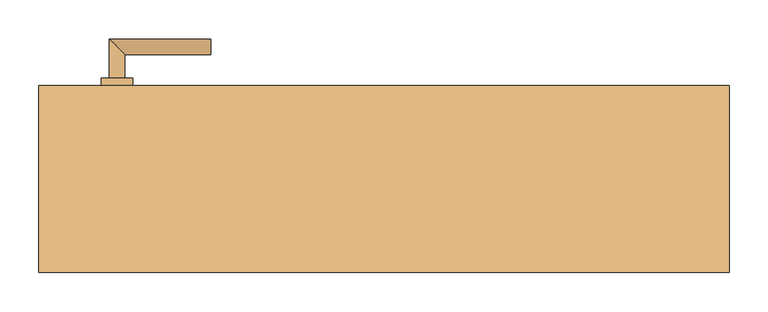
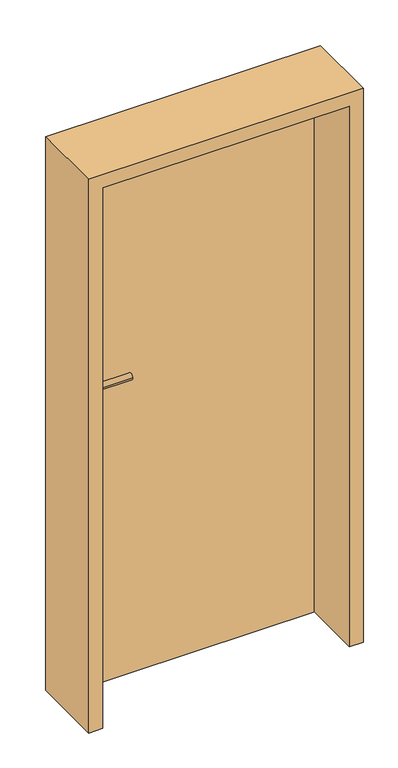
"""IFC4 building model written with IfcOpenShell, lengths in millimetres: door geometry, TU DF 1 - Rahmenstock flächenbündig variabel : ML - H - 885 x 1885."""

from ifc_helpers import new_model, si_unit, point, frame, frame_2d, origin, origin_with_axes, place, context, project, spatial, polyline, circle_curve, ellipse_curve, trimmed, segment, composite_curve, outline, extrude, faceted_brep, source, transform, mapped, element, save
from ifc_brep_helpers import plane_surface, cylinder_surface, advanced_brep


def door_21564633(model_context):
    return source(origin(), model_context, "Body", "SolidModel", [
        extrude(outline(polyline([(408.5, 120.0), (408.5, 75.0), (-408.5, 75.0), (-408.5, 120.0), (408.5, 120.0)])), origin_with_axes(), (0.0, 0.0, 1.0), 1851.0),
        advanced_brep(
        [(-332.5, 130.0, 1050.0), (-352.5, 130.0, 1050.0), (-332.5, 160.0, 1050.0), (-352.5, 180.0, 1050.0), (-222.5, 160.0, 1050.0), (-222.5, 180.0, 1050.0)],
        [
            (0, 1, circle_curve(frame((-342.5, 130.0, 1050.0), z_axis=(0.0, -1.0, 0.0), x_axis=(-1.0, 0.0, 0.0)), 10.0)),
            (1, 0, circle_curve(frame((-342.5, 130.0, 1050.0), z_axis=(0.0, -1.0, 0.0), x_axis=(-1.0, 0.0, 0.0)), 10.0)),
            (0, 2),
            (2, 3, ellipse_curve(frame((-342.5, 170.0, 1050.0), z_axis=(-0.7071067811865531, -0.7071067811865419, 0.0), x_axis=(0.707106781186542, -0.707106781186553, 0.0)), 14.1421356, 10.0)),
            (3, 1),
            (3, 2, ellipse_curve(frame((-342.5, 170.0, 1050.0), z_axis=(-0.7071067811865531, -0.7071067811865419, 0.0), x_axis=(0.707106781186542, -0.707106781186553, 0.0)), 14.1421356, 10.0)),
            (4, 5, circle_curve(frame((-222.5, 170.0, 1050.0), z_axis=(1.0, 0.0, 0.0), x_axis=(0.0, 1.0, 0.0)), 10.0)),
            (5, 4, circle_curve(frame((-222.5, 170.0, 1050.0), z_axis=(1.0, 0.0, 0.0), x_axis=(0.0, 1.0, 0.0)), 10.0)),
            (2, 4),
            (5, 3),
        ],
        [
            plane_surface(frame((-342.5, 130.0, 1050.0), z_axis=(0.0, -1.0, 0.0), x_axis=(0.0, 0.0, 1.0))),
            cylinder_surface(frame((-342.5, 130.0, 1050.0), z_axis=(0.0, -1.0, 0.0), x_axis=(-1.0, 0.0, 0.0)), 10.0),
            plane_surface(frame((-222.5, 170.0, 1050.0), z_axis=(1.0, 0.0, 0.0), x_axis=(0.0, 0.0, 1.0))),
            cylinder_surface(frame((-342.5, 170.0, 1050.0), z_axis=(-1.0, 0.0, 0.0), x_axis=(0.0, 1.0, 0.0)), 10.0),
        ],
        [
            (0, [[1, 2]]),
            (1, [[-1, 3, 4, 5]]),
            (1, [[-2, -5, 6, -3]]),
            (2, [[7, 8]]),
            (3, [[-4, 9, -8, 10]]),
            (3, [[-6, -10, -7, -9]]),
        ],
    ),
        extrude(outline(composite_curve([segment(trimmed(circle_curve(frame_2d((990.0, -342.5)), 20.0), [point((990.0, -362.5))], [point((990.0, -322.5))], False, "CARTESIAN"), True, "CONTINUOUS"), segment(trimmed(circle_curve(frame_2d((990.0, -342.5)), 20.0), [point((990.0, -322.5))], [point((990.0, -362.5))], False, "CARTESIAN"), True, "CONTINUOUS")], self_intersect=False), holes=[composite_curve([segment(polyline([(976.4601385, -344.897268), (988.4749012, -344.897268)]), True, "CONTINUOUS"), segment(trimmed(circle_curve(frame_2d((995.0361633, -342.5)), 6.9854888), [point((988.4749012, -344.897268))], [point((988.4749012, -340.102732))], True, "CARTESIAN"), True, "CONTINUOUS"), segment(polyline([(988.4749012, -340.102732), (976.4601385, -340.102732)]), True, "CONTINUOUS"), segment(trimmed(circle_curve(frame_2d((976.4601385, -342.5)), 2.397268), [point((976.4601385, -340.102732))], [point((976.4601385, -344.897268))], True, "CARTESIAN"), True, "CONTINUOUS")], self_intersect=False)]), frame((0.0, 120.0, 0.0), z_axis=(0.0, 1.0, 0.0), x_axis=(0.0, 0.0, 1.0)), (0.0, 0.0, 1.0), 10.0),
        advanced_brep(
        [(-332.5, 130.0, 1050.0), (-352.5, 130.0, 1050.0), (-332.5, 160.0, 1050.0), (-352.5, 180.0, 1050.0), (-222.5, 160.0, 1050.0), (-222.5, 180.0, 1050.0)],
        [
            (0, 1, circle_curve(frame((-342.5, 130.0, 1050.0), z_axis=(0.0, -1.0, 0.0), x_axis=(-1.0, 0.0, 0.0)), 10.0)),
            (1, 0, circle_curve(frame((-342.5, 130.0, 1050.0), z_axis=(0.0, -1.0, 0.0), x_axis=(-1.0, 0.0, 0.0)), 10.0)),
            (0, 2),
            (2, 3, ellipse_curve(frame((-342.5, 170.0, 1050.0), z_axis=(-0.7071067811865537, -0.7071067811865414, 0.0), x_axis=(0.7071067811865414, -0.7071067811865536, 0.0)), 14.1421356, 10.0)),
            (3, 1),
            (3, 2, ellipse_curve(frame((-342.5, 170.0, 1050.0), z_axis=(-0.7071067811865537, -0.7071067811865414, 0.0), x_axis=(0.7071067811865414, -0.7071067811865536, 0.0)), 14.1421356, 10.0)),
            (4, 5, circle_curve(frame((-222.5, 170.0, 1050.0), z_axis=(1.0, 0.0, 0.0), x_axis=(0.0, 1.0, 0.0)), 10.0)),
            (5, 4, circle_curve(frame((-222.5, 170.0, 1050.0), z_axis=(1.0, 0.0, 0.0), x_axis=(0.0, 1.0, 0.0)), 10.0)),
            (2, 4),
            (5, 3),
        ],
        [
            plane_surface(frame((-342.5, 130.0, 1050.0), z_axis=(0.0, -1.0, 0.0), x_axis=(0.0, 0.0, 1.0))),
            cylinder_surface(frame((-342.5, 130.0, 1050.0), z_axis=(0.0, -1.0, 0.0), x_axis=(-1.0, 0.0, 0.0)), 10.0),
            plane_surface(frame((-222.5, 170.0, 1050.0), z_axis=(1.0, 0.0, 0.0), x_axis=(0.0, 0.0, 1.0))),
            cylinder_surface(frame((-342.5, 170.0, 1050.0), z_axis=(-1.0, 0.0, 0.0), x_axis=(0.0, 1.0, 0.0)), 10.0),
        ],
        [
            (0, [[1, 2]]),
            (1, [[-1, 3, 4, 5]]),
            (1, [[-2, -5, 6, -3]]),
            (2, [[7, 8]]),
            (3, [[-4, 9, -8, 10]]),
            (3, [[-6, -10, -7, -9]]),
        ],
    ),
        extrude(outline(composite_curve([segment(trimmed(circle_curve(frame_2d((1050.0, -342.5)), 20.0), [point((1050.0, -362.5))], [point((1050.0, -322.5))], False, "CARTESIAN"), True, "CONTINUOUS"), segment(trimmed(circle_curve(frame_2d((1050.0, -342.5)), 20.0), [point((1050.0, -322.5))], [point((1050.0, -362.5))], False, "CARTESIAN"), True, "CONTINUOUS")], self_intersect=False)), frame((0.0, 120.0, 0.0), z_axis=(0.0, 1.0, 0.0), x_axis=(0.0, 0.0, 1.0)), (0.0, 0.0, 1.0), 10.0),
        advanced_brep(
        [(-332.5, 65.0, 1050.0), (-352.5, 65.0, 1050.0), (-352.5, 15.0, 1050.0), (-332.5, 35.0, 1050.0), (-222.5, 35.0, 1050.0), (-222.5, 15.0, 1050.0)],
        [
            (0, 1, circle_curve(frame((-342.5, 65.0, 1050.0), z_axis=(0.0, 1.0, 0.0), x_axis=(-1.0, 0.0, 0.0)), 10.0)),
            (1, 0, circle_curve(frame((-342.5, 65.0, 1050.0), z_axis=(0.0, 1.0, 0.0), x_axis=(-1.0, 0.0, 0.0)), 10.0)),
            (1, 2),
            (2, 3, ellipse_curve(frame((-342.5, 25.0, 1050.0), z_axis=(-0.7071067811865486, 0.7071067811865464, 0.0), x_axis=(0.7071067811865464, 0.7071067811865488, 0.0)), 14.1421356, 10.0)),
            (3, 0),
            (3, 2, ellipse_curve(frame((-342.5, 25.0, 1050.0), z_axis=(-0.7071067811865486, 0.7071067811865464, 0.0), x_axis=(0.7071067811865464, 0.7071067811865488, 0.0)), 14.1421356, 10.0)),
            (4, 5, circle_curve(frame((-222.5, 25.0, 1050.0), z_axis=(1.0, 0.0, 0.0), x_axis=(0.0, -1.0, 0.0)), 10.0)),
            (5, 4, circle_curve(frame((-222.5, 25.0, 1050.0), z_axis=(1.0, 0.0, 0.0), x_axis=(0.0, -1.0, 0.0)), 10.0)),
            (2, 5),
            (4, 3),
        ],
        [
            plane_surface(frame((-342.5, 65.0, 1050.0), z_axis=(0.0, 1.0, 0.0), x_axis=(0.0, 0.0, 1.0))),
            cylinder_surface(frame((-342.5, 65.0, 1050.0), z_axis=(0.0, 1.0, 0.0), x_axis=(-1.0, 0.0, 0.0)), 10.0),
            plane_surface(frame((-222.5, 25.0, 1050.0), z_axis=(1.0, 0.0, 0.0), x_axis=(0.0, 0.0, 1.0))),
            cylinder_surface(frame((-342.5, 25.0, 1050.0), z_axis=(-1.0, 0.0, 0.0), x_axis=(0.0, -1.0, 0.0)), 10.0),
        ],
        [
            (0, [[1, 2]]),
            (1, [[3, 4, 5, -2]]),
            (1, [[-5, 6, -3, -1]]),
            (2, [[7, 8]]),
            (3, [[9, -7, 10, -4]]),
            (3, [[-10, -8, -9, -6]]),
        ],
    ),
        extrude(outline(composite_curve([segment(trimmed(circle_curve(frame_2d((990.0, -342.5)), 20.0), [point((990.0, -362.5))], [point((990.0, -322.5))], False, "CARTESIAN"), True, "CONTINUOUS"), segment(trimmed(circle_curve(frame_2d((990.0, -342.5)), 20.0), [point((990.0, -322.5))], [point((990.0, -362.5))], False, "CARTESIAN"), True, "CONTINUOUS")], self_intersect=False), holes=[composite_curve([segment(polyline([(976.4601385, -344.897268), (988.4749012, -344.897268)]), True, "CONTINUOUS"), segment(trimmed(circle_curve(frame_2d((995.0361633, -342.5)), 6.9854888), [point((988.4749012, -344.897268))], [point((988.4749012, -340.102732))], True, "CARTESIAN"), True, "CONTINUOUS"), segment(polyline([(988.4749012, -340.102732), (976.4601385, -340.102732)]), True, "CONTINUOUS"), segment(trimmed(circle_curve(frame_2d((976.4601385, -342.5)), 2.397268), [point((976.4601385, -340.102732))], [point((976.4601385, -344.897268))], True, "CARTESIAN"), True, "CONTINUOUS")], self_intersect=False)]), frame((0.0, 65.0, 0.0), z_axis=(0.0, 1.0, 0.0), x_axis=(0.0, 0.0, 1.0)), (0.0, 0.0, 1.0), 10.0),
        advanced_brep(
        [(-332.5, 65.0, 1050.0), (-352.5, 65.0, 1050.0), (-352.5, 15.0, 1050.0), (-332.5, 35.0, 1050.0), (-222.5, 35.0, 1050.0), (-222.5, 15.0, 1050.0)],
        [
            (0, 1, circle_curve(frame((-342.5, 65.0, 1050.0), z_axis=(0.0, 1.0, 0.0), x_axis=(-1.0, 0.0, 0.0)), 10.0)),
            (1, 0, circle_curve(frame((-342.5, 65.0, 1050.0), z_axis=(0.0, 1.0, 0.0), x_axis=(-1.0, 0.0, 0.0)), 10.0)),
            (1, 2),
            (2, 3, ellipse_curve(frame((-342.5, 25.0, 1050.0), z_axis=(-0.7071067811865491, 0.7071067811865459, 0.0), x_axis=(0.7071067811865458, 0.7071067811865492, 0.0)), 14.1421356, 10.0)),
            (3, 0),
            (3, 2, ellipse_curve(frame((-342.5, 25.0, 1050.0), z_axis=(-0.7071067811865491, 0.7071067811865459, 0.0), x_axis=(0.7071067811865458, 0.7071067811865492, 0.0)), 14.1421356, 10.0)),
            (4, 5, circle_curve(frame((-222.5, 25.0, 1050.0), z_axis=(1.0, 0.0, 0.0), x_axis=(0.0, -1.0, 0.0)), 10.0)),
            (5, 4, circle_curve(frame((-222.5, 25.0, 1050.0), z_axis=(1.0, 0.0, 0.0), x_axis=(0.0, -1.0, 0.0)), 10.0)),
            (2, 5),
            (4, 3),
        ],
        [
            plane_surface(frame((-342.5, 65.0, 1050.0), z_axis=(0.0, 1.0, 0.0), x_axis=(0.0, 0.0, 1.0))),
            cylinder_surface(frame((-342.5, 65.0, 1050.0), z_axis=(0.0, 1.0, 0.0), x_axis=(-1.0, 0.0, 0.0)), 10.0),
            plane_surface(frame((-222.5, 25.0, 1050.0), z_axis=(1.0, 0.0, 0.0), x_axis=(0.0, 0.0, 1.0))),
            cylinder_surface(frame((-342.5, 25.0, 1050.0), z_axis=(-1.0, 0.0, 0.0), x_axis=(0.0, -1.0, 0.0)), 10.0),
        ],
        [
            (0, [[1, 2]]),
            (1, [[3, 4, 5, -2]]),
            (1, [[-5, 6, -3, -1]]),
            (2, [[7, 8]]),
            (3, [[9, -7, 10, -4]]),
            (3, [[-10, -8, -9, -6]]),
        ],
    ),
        extrude(outline(composite_curve([segment(trimmed(circle_curve(frame_2d((1050.0, -342.5)), 20.0), [point((1050.0, -362.5))], [point((1050.0, -322.5))], False, "CARTESIAN"), True, "CONTINUOUS"), segment(trimmed(circle_curve(frame_2d((1050.0, -342.5)), 20.0), [point((1050.0, -322.5))], [point((1050.0, -362.5))], False, "CARTESIAN"), True, "CONTINUOUS")], self_intersect=False)), frame((0.0, 65.0, 0.0), z_axis=(0.0, 1.0, 0.0), x_axis=(0.0, 0.0, 1.0)), (0.0, 0.0, 1.0), 10.0),
        faceted_brep([(-412.5, 120.0, 0.0), (-412.5, 75.0, 0.0), (-397.5, 75.0, 0.0), (-397.5, -120.0, 0.0), (-442.5, -120.0, 0.0), (-442.5, 120.0, 0.0), (-412.5, 120.0, 1855.0), (-412.5, 75.0, 1855.0), (412.5, 75.0, 1855.0), (412.5, 75.0, 0.0), (397.5, 75.0, 0.0), (397.5, 75.0, 1840.0), (-397.5, 75.0, 1840.0), (-397.5, -120.0, 1840.0), (397.5, -120.0, 1840.0), (397.5, -120.0, 0.0), (442.5, -120.0, 0.0), (442.5, -120.0, 1885.0), (-442.5, -120.0, 1885.0), (-442.5, 120.0, 1885.0), (442.5, 120.0, 1885.0), (442.5, 120.0, 0.0), (412.5, 120.0, 0.0), (412.5, 120.0, 1855.0)], [[[0, 1, 2, 3, 4, 5]], [[1, 0, 6, 7]], [[2, 1, 7, 8, 9, 10, 11, 12]], [[3, 2, 12, 13]], [[4, 3, 13, 14, 15, 16, 17, 18]], [[5, 4, 18, 19]], [[0, 5, 19, 20, 21, 22, 23, 6]], [[20, 17, 16, 21]], [[22, 21, 16, 15, 10, 9]], [[8, 23, 22, 9]], [[14, 11, 10, 15]], [[19, 18, 17, 20]], [[13, 12, 11, 14]], [[7, 6, 23, 8]]]),
    ])


if __name__ == "__main__":
    model = new_model("IFC4")
    model_context = context("Model", 3, world=origin())
    ifc_project = project(units=[si_unit("LENGTHUNIT", "METRE", prefix="MILLI")], contexts=[model_context])
    site = spatial("IfcSite", under=ifc_project)
    building = spatial("IfcBuilding", under=site)
    placement = place(None, origin())
    door_shape = door_21564633(model_context)
    element("IfcDoor", 1, ObjectType="TU DF 1 - Rahmenstock flächenbündig variabel : ML - H - 885 x 1885", at=placement, inside=building, context=model_context, shape_type="MappedRepresentation", body=[
        mapped(door_shape, transform((0.0, 0.0, 0.0), x_axis=(1.0, 0.0, 0.0), y_axis=(0.0, 1.0, 0.0), z_axis=(0.0, 0.0, 1.0))),
    ])
    save(model, "model.ifc")
